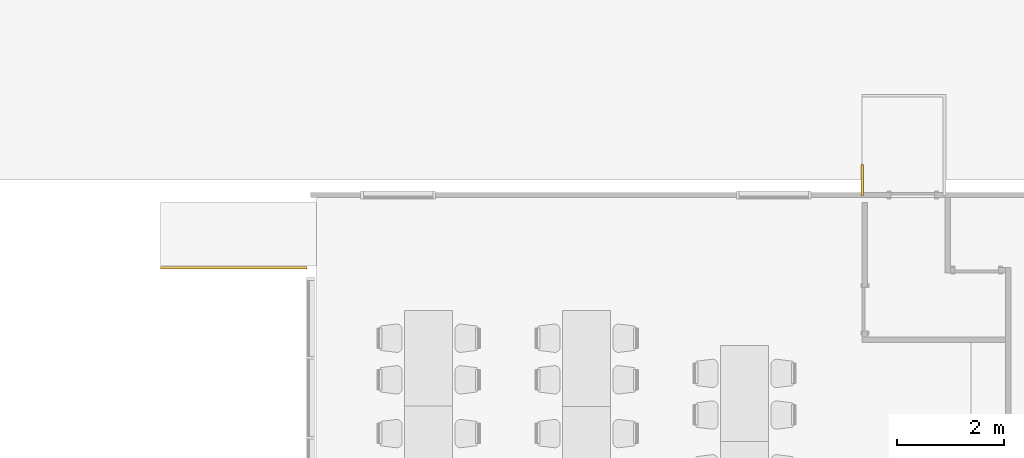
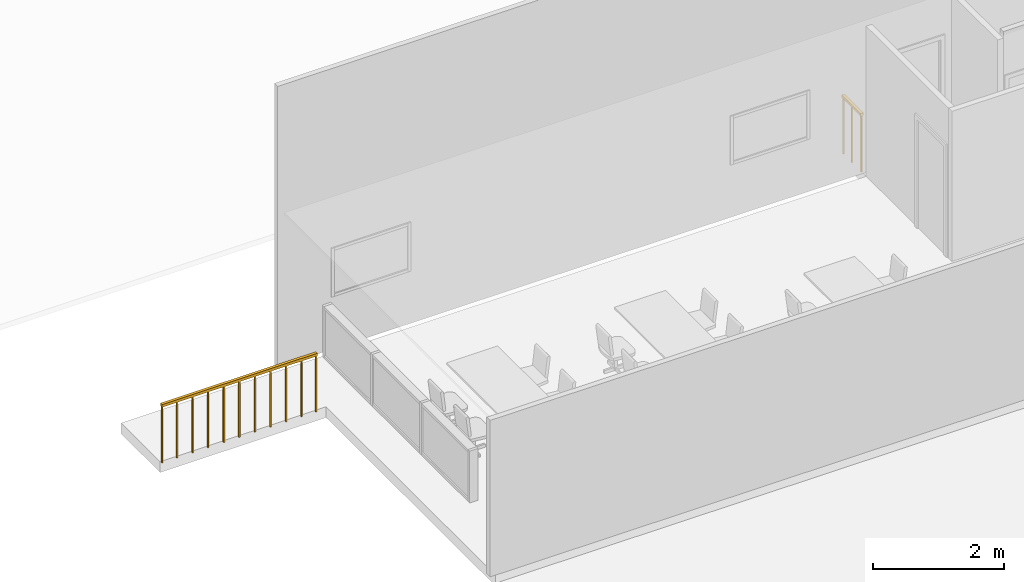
# One storey, part 4 of 6: 2 railings.
"""IFC2X3 building model written with IfcOpenShell, lengths in millimetres."""

from ifc_helpers import new_model, entity, si_unit, converted_unit, derived_unit, direction, frame, frame_2d, origin, place, context, subcontext, project, spatial, rectangle, extrude, element, save


model = new_model("IFC2X3")

# Units and contexts
model_context = context("Model", 3, precision=0.01, world=origin(), true_north=direction((4.05803320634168e-15, -1.0)))
body_context = subcontext(model_context, "Body", "Model", "MODEL_VIEW")
ifc_project = project(units=[si_unit("LENGTHUNIT", "METRE", prefix="MILLI"), si_unit("AREAUNIT", "SQUARE_METRE"), si_unit("VOLUMEUNIT", "CUBIC_METRE"), converted_unit("PLANEANGLEUNIT", "DEGREE", entity("IfcRatioMeasure", 0.0174532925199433), si_unit("PLANEANGLEUNIT", "RADIAN"), dimensions=[0, 0, 0, 0, 0, 0, 0]), si_unit("MASSUNIT", "GRAM", prefix="KILO"), derived_unit("MASSDENSITYUNIT", [(si_unit("MASSUNIT", "GRAM", prefix="KILO"), 1), (si_unit("LENGTHUNIT", "METRE"), -3)]), si_unit("TIMEUNIT", "SECOND"), si_unit("FREQUENCYUNIT", "HERTZ"), si_unit("THERMODYNAMICTEMPERATUREUNIT", "DEGREE_CELSIUS"), derived_unit("THERMALTRANSMITTANCEUNIT", [(si_unit("MASSUNIT", "GRAM", prefix="KILO"), 1), (si_unit("THERMODYNAMICTEMPERATUREUNIT", "KELVIN"), -1), (si_unit("TIMEUNIT", "SECOND"), -3)]), derived_unit("VOLUMETRICFLOWRATEUNIT", [(si_unit("LENGTHUNIT", "METRE"), 3), (si_unit("TIMEUNIT", "SECOND"), -1)]), si_unit("ELECTRICCURRENTUNIT", "AMPERE"), si_unit("ELECTRICVOLTAGEUNIT", "VOLT"), si_unit("POWERUNIT", "WATT"), si_unit("FORCEUNIT", "NEWTON", prefix="KILO"), si_unit("ILLUMINANCEUNIT", "LUX"), si_unit("LUMINOUSFLUXUNIT", "LUMEN"), si_unit("LUMINOUSINTENSITYUNIT", "CANDELA"), derived_unit("USERDEFINED", [(si_unit("MASSUNIT", "GRAM", prefix="KILO"), -1), (si_unit("LENGTHUNIT", "METRE"), -2), (si_unit("TIMEUNIT", "SECOND"), 3), (si_unit("LUMINOUSFLUXUNIT", "LUMEN"), 1)]), derived_unit("LINEARVELOCITYUNIT", [(si_unit("LENGTHUNIT", "METRE"), 1), (si_unit("TIMEUNIT", "SECOND"), -1)]), si_unit("PRESSUREUNIT", "PASCAL"), derived_unit("USERDEFINED", [(si_unit("LENGTHUNIT", "METRE"), -2), (si_unit("MASSUNIT", "GRAM", prefix="KILO"), 1), (si_unit("TIMEUNIT", "SECOND"), -2)])], contexts=[model_context])

# Site, building, storey
site_placement = place(None, frame((927466.849349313, 583801.882853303, 0.0), z_axis=(0.0, 0.0, 1.0), x_axis=(-1.0, 0.0, 0.0)))
site = spatial("IfcSite", under=ifc_project, at=site_placement, Name="Surface", CompositionType="ELEMENT")
building_placement = place(site_placement, origin())
building = spatial("IfcBuilding", under=site, at=building_placement, CompositionType="ELEMENT")
storey_placement = place(building_placement, frame((0.0, 0.0, 51027.1066036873)))
storey = spatial("IfcBuildingStorey", under=building, at=storey_placement, Name="2nd floor", CompositionType="ELEMENT", Elevation=51027.1066036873)

# Railings
railing_1_placement = place(storey_placement, origin())
element("IfcRailing", 1, at=railing_1_placement, inside=storey, Name="Railing:1100mm", ObjectType="Railing:1100mm", PredefinedType="NOTDEFINED", context=body_context, shape_type="SweptSolid", body=[
    extrude(rectangle(XDim=24.9999999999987, YDim=24.9999999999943, at=frame_2d((0.0, 8.66329230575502e-12), x_axis=(1.0, 0.0))), frame((-91119.0398327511, 11939.2777512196, 0.0), z_axis=(0.0, 0.0, 1.0), x_axis=(0.0, 1.0, 0.0)), (0.0, 0.0, 1.0), 1050.0),
    extrude(rectangle(XDim=24.9999999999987, YDim=24.9999999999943, at=frame_2d((0.0, 8.66329230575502e-12), x_axis=(1.0, 0.0))), frame((-91119.0398327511, 11664.2777512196, 0.0), z_axis=(0.0, 0.0, 1.0), x_axis=(0.0, 1.0, 0.0)), (0.0, 0.0, 1.0), 1050.0),
    extrude(rectangle(XDim=24.9999999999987, YDim=24.9999999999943, at=frame_2d((0.0, 8.66329230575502e-12), x_axis=(1.0, 0.0))), frame((-91119.0398327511, 11956.7777512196, 0.0), z_axis=(0.0, 0.0, 1.0), x_axis=(0.0, 1.0, 0.0)), (0.0, 0.0, 1.0), 1050.0),
    extrude(rectangle(XDim=24.9999999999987, YDim=24.9999999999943, at=frame_2d((0.0, 8.66329230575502e-12), x_axis=(1.0, 0.0))), frame((-91119.0398327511, 11401.7777512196, 0.0), z_axis=(0.0, 0.0, 1.0), x_axis=(0.0, 1.0, 0.0)), (0.0, 0.0, 1.0), 1050.0),
    extrude(rectangle(XDim=579.999999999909, YDim=50.000000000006, at=frame_2d((-1.08002495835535e-12, -8.66329230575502e-12), x_axis=(1.0, 0.0))), frame((-91119.0398327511, 11679.2777512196, 1050.0), z_axis=(0.0, 0.0, 1.0), x_axis=(0.0, 1.0, 0.0)), (0.0, 0.0, 1.0), 49.9999999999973),
])
railing_2_placement = place(storey_placement, origin())
element("IfcRailing", 2, at=railing_2_placement, inside=storey, Name="Railing:1100mm", ObjectType="Railing:1100mm", PredefinedType="NOTDEFINED", context=body_context, shape_type="SweptSolid", body=[
    extrude(rectangle(XDim=25.0000000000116, YDim=25.0000000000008, at=frame_2d((0.0, -1.08268949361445e-12), x_axis=(1.0, 0.0))), frame((-80447.3616242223, 13322.1010509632, 0.0), z_axis=(0.0, 0.0, 1.0), x_axis=(-1.0, 0.0, 0.0)), (0.0, 0.0, 1.0), 1050.0),
    extrude(rectangle(XDim=25.0000000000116, YDim=25.0000000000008, at=frame_2d((0.0, 1.08268949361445e-12), x_axis=(1.0, 0.0))), frame((-80172.3616242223, 13322.1010509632, 0.0), z_axis=(0.0, 0.0, 1.0), x_axis=(-1.0, 0.0, 0.0)), (0.0, 0.0, 1.0), 1050.0),
    extrude(rectangle(XDim=25.0000000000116, YDim=25.0000000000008, at=frame_2d((0.0, 1.08268949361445e-12), x_axis=(1.0, 0.0))), frame((-79897.3616242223, 13322.1010509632, 0.0), z_axis=(0.0, 0.0, 1.0), x_axis=(-1.0, 0.0, 0.0)), (0.0, 0.0, 1.0), 1050.0),
    extrude(rectangle(XDim=25.0000000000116, YDim=25.0000000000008, at=frame_2d((0.0, 1.08268949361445e-12), x_axis=(1.0, 0.0))), frame((-79622.3616242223, 13322.1010509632, 0.0), z_axis=(0.0, 0.0, 1.0), x_axis=(-1.0, 0.0, 0.0)), (0.0, 0.0, 1.0), 1050.0),
    extrude(rectangle(XDim=25.0000000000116, YDim=25.0000000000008, at=frame_2d((0.0, 1.08268949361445e-12), x_axis=(1.0, 0.0))), frame((-79347.3616242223, 13322.1010509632, 0.0), z_axis=(0.0, 0.0, 1.0), x_axis=(-1.0, 0.0, 0.0)), (0.0, 0.0, 1.0), 1050.0),
    extrude(rectangle(XDim=25.0000000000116, YDim=25.0000000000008, at=frame_2d((0.0, 1.08268949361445e-12), x_axis=(1.0, 0.0))), frame((-79072.3616242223, 13322.1010509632, 0.0), z_axis=(0.0, 0.0, 1.0), x_axis=(-1.0, 0.0, 0.0)), (0.0, 0.0, 1.0), 1050.0),
    extrude(rectangle(XDim=25.0000000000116, YDim=25.0000000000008, at=frame_2d((0.0, -1.08268949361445e-12), x_axis=(1.0, 0.0))), frame((-78797.3616242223, 13322.1010509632, 0.0), z_axis=(0.0, 0.0, 1.0), x_axis=(-1.0, 0.0, 0.0)), (0.0, 0.0, 1.0), 1050.0),
    extrude(rectangle(XDim=25.0000000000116, YDim=25.0000000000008, at=frame_2d((0.0, -1.08268949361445e-12), x_axis=(1.0, 0.0))), frame((-78522.3616242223, 13322.1010509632, 0.0), z_axis=(0.0, 0.0, 1.0), x_axis=(-1.0, 0.0, 0.0)), (0.0, 0.0, 1.0), 1050.0),
    extrude(rectangle(XDim=25.0000000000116, YDim=25.0000000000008, at=frame_2d((0.0, -1.08268949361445e-12), x_axis=(1.0, 0.0))), frame((-78247.3616242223, 13322.1010509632, 0.0), z_axis=(0.0, 0.0, 1.0), x_axis=(-1.0, 0.0, 0.0)), (0.0, 0.0, 1.0), 1050.0),
    extrude(rectangle(XDim=25.0000000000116, YDim=25.0000000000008, at=frame_2d((0.0, -1.08268949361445e-12), x_axis=(1.0, 0.0))), frame((-80699.8616242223, 13322.1010509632, 0.0), z_axis=(0.0, 0.0, 1.0), x_axis=(-1.0, 0.0, 0.0)), (0.0, 0.0, 1.0), 1050.0),
    extrude(rectangle(XDim=24.9999999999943, YDim=25.0000000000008, at=frame_2d((0.0, -1.08268949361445e-12), x_axis=(1.0, 0.0))), frame((-77984.8616242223, 13322.1010509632, 0.0), z_axis=(0.0, 0.0, 1.0), x_axis=(-1.0, 0.0, 0.0)), (0.0, 0.0, 1.0), 1050.0),
    extrude(rectangle(XDim=2739.99999999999, YDim=49.9999999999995, at=frame_2d((4.32009983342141e-12, -1.08357767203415e-12), x_axis=(1.0, 0.0))), frame((-79342.3616242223, 13322.1010509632, 1050.0), z_axis=(0.0, 0.0, 1.0), x_axis=(-1.0, 0.0, 0.0)), (0.0, 0.0, 1.0), 49.9999999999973),
])

save(model, "model.ifc")
